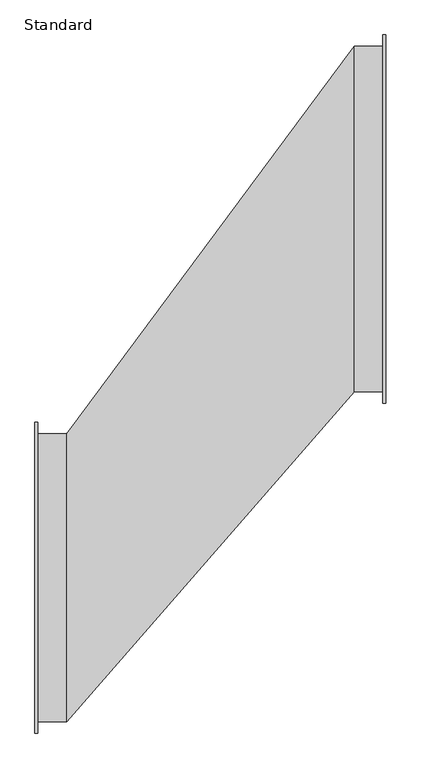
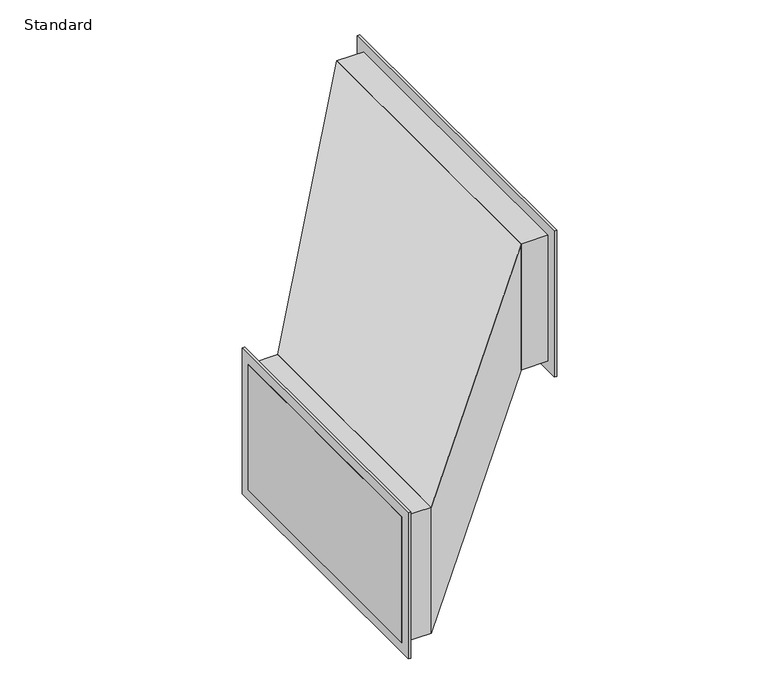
"""IFC4 building model written with IfcOpenShell, lengths in millimetres: duct fitting geometry, Übergang rechteck UA : Standard."""

from ifc_helpers import new_model, si_unit, frame, origin, place, context, project, spatial, polyline, outline, extrude, source, transform, mapped, element, save


def standard_06fb8837(model_context):
    return source(origin(), model_context, "Body", "SweptSolid", [
        extrude(outline(polyline([(555.0, 323.5465335), (555.0, 923.5465335), (610.0, 923.5465335), (610.0, 323.5465335), (555.0, 323.5465335)])), frame((0.0, 0.0, -125.0), z_axis=(0.0, 0.0, 1.0), x_axis=(1.0, 0.0, 0.0)), (0.0, 0.0, 1.0), 250.0),
        extrude(outline(polyline([(55.0, -250.0), (55.0, 250.0), (555.0, 923.5465335), (555.0, 323.5465335), (55.0, -250.0)])), frame((0.0, 0.0, -125.0), z_axis=(0.0, 0.0, 1.0), x_axis=(1.0, 0.0, 0.0)), (0.0, 0.0, 1.0), 250.0),
        extrude(outline(polyline([(0.0, -250.0), (0.0, 250.0), (55.0, 250.0), (55.0, -250.0), (0.0, -250.0)])), frame((0.0, 0.0, -125.0), z_axis=(0.0, 0.0, 1.0), x_axis=(1.0, 0.0, 0.0)), (0.0, 0.0, 1.0), 250.0),
        extrude(outline(polyline([(605.0, 303.5465335), (605.0, 943.5465335), (610.0, 943.5465335), (610.0, 303.5465335), (605.0, 303.5465335)])), frame((0.0, 0.0, -145.0), z_axis=(0.0, 0.0, 1.0), x_axis=(1.0, 0.0, 0.0)), (0.0, 0.0, 1.0), 290.0),
        extrude(outline(polyline([(0.0, -270.0), (0.0, 270.0), (5.0, 270.0), (5.0, -270.0), (0.0, -270.0)])), frame((0.0, 0.0, -145.0), z_axis=(0.0, 0.0, 1.0), x_axis=(1.0, 0.0, 0.0)), (0.0, 0.0, 1.0), 290.0),
    ])


if __name__ == "__main__":
    model = new_model("IFC4")
    model_context = context("Model", 3, world=origin())
    ifc_project = project(units=[si_unit("LENGTHUNIT", "METRE", prefix="MILLI")], contexts=[model_context])
    site = spatial("IfcSite", under=ifc_project)
    building = spatial("IfcBuilding", under=site)
    placement = place(None, origin())
    standard_shape = standard_06fb8837(model_context)
    element("IfcDuctFitting", 1, ObjectType="Übergang rechteck UA : Standard", at=placement, inside=building, context=model_context, shape_type="MappedRepresentation", body=[
        mapped(standard_shape, transform((0.0, 0.0, 0.0), x_axis=(1.0, 0.0, 0.0), y_axis=(0.0, 1.0, 0.0), z_axis=(0.0, 0.0, 1.0))),
    ])
    save(model, "model.ifc")
